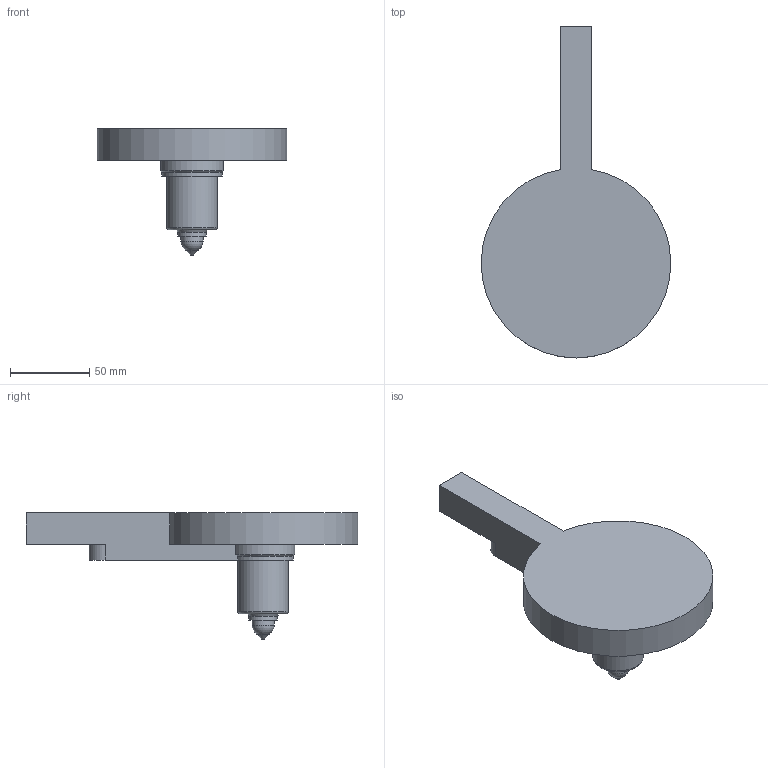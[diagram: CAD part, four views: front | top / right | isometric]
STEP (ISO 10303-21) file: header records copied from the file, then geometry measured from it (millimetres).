
FILE_DESCRIPTION( ( 'STEP AP214' ), '1' );
FILE_NAME( 'D:/PROIECTE_YUDO_2009/PROIECTE YUDO 3D/BIS/YUEU09-BIS18CC075/YUEU09-BIS18CC075_CutOut.step', '2009-03-12T06:45:17', ( ' ' ), ( ' ' ), 'XStep 1.0', ' ', ' ' );
FILE_SCHEMA( ( 'automotive_design' ) );
Length unit declared in the file: millimetre
Products named in the file (1): 1
Bounding box: 120 x 210 x 80 mm (x, y, z)
Volume: 321879 mm3; surface area: 44191.5 mm2
Topology: 1 solids, 1 shells, 22 faces, 49 edges, 32 vertices
Faces by surface type: plane 10, cylinder 7, cone 3, torus 1, sphere 1
Full cylindrical faces by diameter (mm): 14 x1, 18 x1, 32 x1
Entity records: 756 total; most frequent: DIRECTION 102, CARTESIAN_POINT 99, ORIENTED_EDGE 80, AXIS2_PLACEMENT_3D 41, EDGE_CURVE 40, EDGE_LOOP 32, VERTEX_POINT 30, FACE_OUTER_BOUND 27
